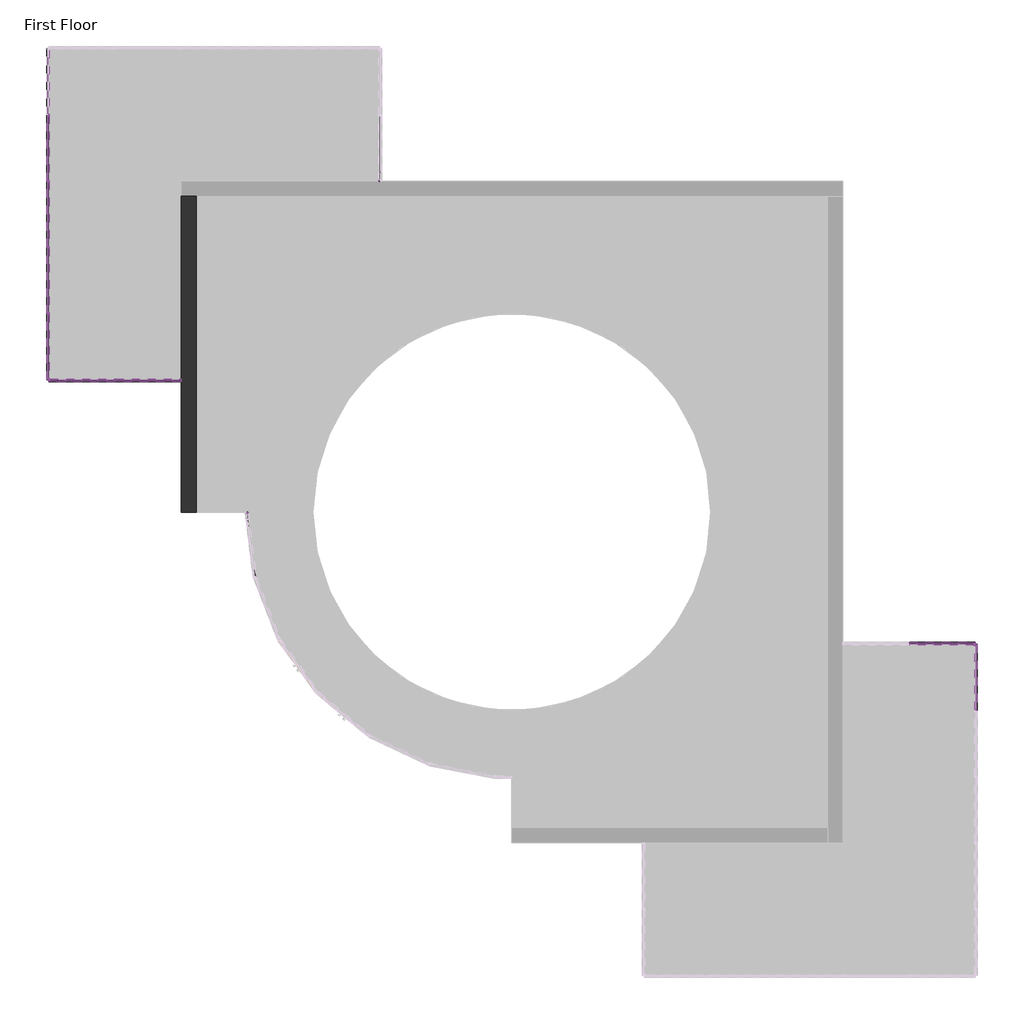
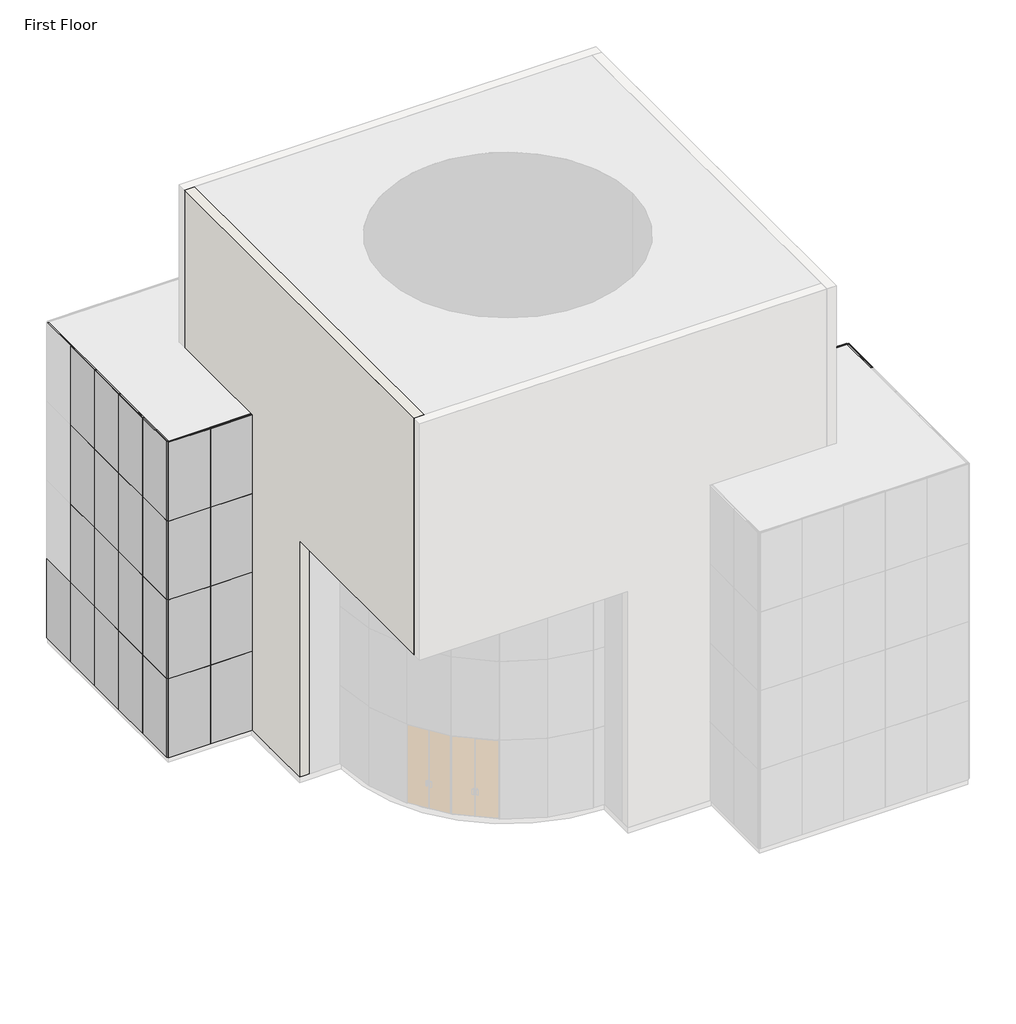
# One storey, part 3 of 4: 92 members, 33 plates, 1 wall.
"""IFC4 building model written with IfcOpenShell, lengths in millimetres."""

from ifc_helpers import new_model, si_unit, frame, origin, place, context, project, spatial, polyline, outline, extrude, transform, mapped, element, save
from components import rectangular_mullion_30mm_square_353f8307, rectangular_mullion_30mm_square_7a78963c, rectangular_mullion_30mm_square_eb988697, rectangular_mullion_30mm_square_0160e4a9, rectangular_mullion_30mm_square_0f531e6e, rectangular_mullion_30mm_square_5a53314d, rectangular_mullion_30mm_square_4d99f9b3, system_panel_glazed_8bf869fa

model = new_model("IFC4")

# Units and contexts
model_context = context("Model", 3, world=origin())
ifc_project = project(units=[si_unit("LENGTHUNIT", "METRE", prefix="MILLI")], contexts=[model_context])

# Site, building, storey
site = spatial("IfcSite", under=ifc_project)
building = spatial("IfcBuilding", under=site)
storey = spatial("IfcBuildingStorey", under=building, Name="First Floor", Elevation=0.0)

# Members
placement = place(None, origin())
rectangular_mullion_30mm_square_shape = rectangular_mullion_30mm_square_353f8307(model_context)
element("IfcMember", 1, ObjectType="Rectangular Mullion : 30mm Square", at=placement, inside=storey, context=model_context, shape_type="MappedRepresentation", body=[
    mapped(rectangular_mullion_30mm_square_shape, transform((-9824.9649915, 3250.852658, 12192.0), x_axis=(0.0, 0.0, 1.0), y_axis=(-1.0, 0.0, 0.0), z_axis=(0.0, -1.0, 0.0))),
])
element("IfcMember", 2, ObjectType="Rectangular Mullion : 30mm Square", at=placement, inside=storey, context=model_context, shape_type="MappedRepresentation", body=[
    mapped(rectangular_mullion_30mm_square_shape, transform((-9824.9649915, 9331.852658, 12192.0), x_axis=(0.0, 0.0, 1.0), y_axis=(-1.0, 0.0, 0.0), z_axis=(0.0, -1.0, 0.0))),
])
element("IfcMember", 3, ObjectType="Rectangular Mullion : 30mm Square", at=placement, inside=storey, context=model_context, shape_type="MappedRepresentation", body=[
    mapped(rectangular_mullion_30mm_square_shape, transform((-6806.9649915, 3220.852658, 12192.0), x_axis=(0.0, 0.0, 1.0), y_axis=(0.0, -1.0, 0.0), z_axis=(1.0, 0.0, 0.0))),
])
element("IfcMember", 4, ObjectType="Rectangular Mullion : 30mm Square", at=placement, inside=storey, context=model_context, shape_type="MappedRepresentation", body=[
    mapped(rectangular_mullion_30mm_square_shape, transform((-8315.9649915, 3220.852658, 12192.0), x_axis=(0.0, 0.0, 1.0), y_axis=(0.0, -1.0, 0.0), z_axis=(1.0, 0.0, 0.0))),
])
element("IfcMember", 5, ObjectType="Rectangular Mullion : 30mm Square", at=placement, inside=storey, context=model_context, shape_type="MappedRepresentation", body=[
    mapped(rectangular_mullion_30mm_square_shape, transform((11511.0350085, -2905.147342, 12192.0), x_axis=(0.0, 0.0, 1.0), y_axis=(1.0, 0.0, 0.0), z_axis=(0.0, 1.0, 0.0))),
])
element("IfcMember", 6, ObjectType="Rectangular Mullion : 30mm Square", at=placement, inside=storey, context=model_context, shape_type="MappedRepresentation", body=[
    mapped(rectangular_mullion_30mm_square_shape, transform((10002.0350085, -2875.147342, 12192.0), x_axis=(0.0, 0.0, 1.0), y_axis=(0.0, 1.0, 0.0), z_axis=(-1.0, 0.0, 0.0))),
])
element("IfcMember", 7, ObjectType="Rectangular Mullion : 30mm Square", at=placement, inside=storey, context=model_context, shape_type="MappedRepresentation", body=[
    mapped(rectangular_mullion_30mm_square_shape, transform((-9824.9649915, 4729.852658, 0.0), x_axis=(0.0, 0.0, -1.0), y_axis=(-1.0, 0.0, 0.0), z_axis=(0.0, 1.0, 0.0))),
])
element("IfcMember", 8, ObjectType="Rectangular Mullion : 30mm Square", at=placement, inside=storey, context=model_context, shape_type="MappedRepresentation", body=[
    mapped(rectangular_mullion_30mm_square_shape, transform((-9794.9649915, 3220.852658, 0.0), x_axis=(0.0, 0.0, -1.0), y_axis=(0.0, -1.0, 0.0), z_axis=(-1.0, 0.0, 0.0))),
])
element("IfcMember", 9, ObjectType="Rectangular Mullion : 30mm Square", at=placement, inside=storey, context=model_context, shape_type="MappedRepresentation", body=[
    mapped(rectangular_mullion_30mm_square_shape, transform((-8285.9649915, 3220.852658, 0.0), x_axis=(0.0, 0.0, -1.0), y_axis=(0.0, -1.0, 0.0), z_axis=(-1.0, 0.0, 0.0))),
])
element("IfcMember", 10, ObjectType="Rectangular Mullion : 30mm Square", at=placement, inside=storey, context=model_context, shape_type="MappedRepresentation", body=[
    mapped(rectangular_mullion_30mm_square_shape, transform((11481.0350085, -2875.147342, 0.0), x_axis=(0.0, 0.0, -1.0), y_axis=(0.0, 1.0, 0.0), z_axis=(1.0, 0.0, 0.0))),
])
element("IfcMember", 11, ObjectType="Rectangular Mullion : 30mm Square", at=placement, inside=storey, context=model_context, shape_type="MappedRepresentation", body=[
    mapped(rectangular_mullion_30mm_square_shape, transform((-2204.9649915, 7822.852658, 0.0), x_axis=(0.0, 0.0, -1.0), y_axis=(1.0, 0.0, 0.0), z_axis=(0.0, -1.0, 0.0))),
])
rectangular_mullion_30mm_square_2_shape = rectangular_mullion_30mm_square_7a78963c(model_context)
element("IfcMember", 12, ObjectType="Rectangular Mullion : 30mm Square", at=placement, inside=storey, context=model_context, shape_type="MappedRepresentation", body=[
    mapped(rectangular_mullion_30mm_square_2_shape, transform((-9824.9649915, 9316.852658, 0.0), x_axis=(0.0, -1.0, 0.0), y_axis=(-1.0, 0.0, 0.0), z_axis=(0.0, 0.0, -1.0))),
])
element("IfcMember", 13, ObjectType="Rectangular Mullion : 30mm Square", at=placement, inside=storey, context=model_context, shape_type="MappedRepresentation", body=[
    mapped(rectangular_mullion_30mm_square_2_shape, transform((-9824.9649915, 7792.852658, 0.0), x_axis=(0.0, -1.0, 0.0), y_axis=(-1.0, 0.0, 0.0), z_axis=(0.0, 0.0, -1.0))),
])
element("IfcMember", 14, ObjectType="Rectangular Mullion : 30mm Square", at=placement, inside=storey, context=model_context, shape_type="MappedRepresentation", body=[
    mapped(rectangular_mullion_30mm_square_2_shape, transform((-9824.9649915, 6268.852658, 0.0), x_axis=(0.0, -1.0, 0.0), y_axis=(-1.0, 0.0, 0.0), z_axis=(0.0, 0.0, -1.0))),
])
element("IfcMember", 15, ObjectType="Rectangular Mullion : 30mm Square", at=placement, inside=storey, context=model_context, shape_type="MappedRepresentation", body=[
    mapped(rectangular_mullion_30mm_square_2_shape, transform((-9824.9649915, 4744.852658, 0.0), x_axis=(0.0, -1.0, 0.0), y_axis=(-1.0, 0.0, 0.0), z_axis=(0.0, 0.0, -1.0))),
])
element("IfcMember", 16, ObjectType="Rectangular Mullion : 30mm Square", at=placement, inside=storey, context=model_context, shape_type="MappedRepresentation", body=[
    mapped(rectangular_mullion_30mm_square_2_shape, transform((-8300.9649915, 3220.852658, 0.0), x_axis=(1.0, 0.0, 0.0), y_axis=(0.0, -1.0, 0.0), z_axis=(0.0, 0.0, -1.0))),
])
rectangular_mullion_30mm_square_3_shape = rectangular_mullion_30mm_square_eb988697(model_context)
element("IfcMember", 17, ObjectType="Rectangular Mullion : 30mm Square", at=placement, inside=storey, context=model_context, shape_type="MappedRepresentation", body=[
    mapped(rectangular_mullion_30mm_square_3_shape, transform((-9824.9649915, 9331.852658, 3048.0), x_axis=(0.0, 0.0, 1.0), y_axis=(-1.0, 0.0, 0.0), z_axis=(0.0, -1.0, 0.0))),
])
element("IfcMember", 18, ObjectType="Rectangular Mullion : 30mm Square", at=placement, inside=storey, context=model_context, shape_type="MappedRepresentation", body=[
    mapped(rectangular_mullion_30mm_square_3_shape, transform((-9824.9649915, 3250.852658, 3048.0), x_axis=(0.0, 0.0, 1.0), y_axis=(-1.0, 0.0, 0.0), z_axis=(0.0, -1.0, 0.0))),
])
element("IfcMember", 19, ObjectType="Rectangular Mullion : 30mm Square", at=placement, inside=storey, context=model_context, shape_type="MappedRepresentation", body=[
    mapped(rectangular_mullion_30mm_square_3_shape, transform((-9824.9649915, 9331.852658, 6096.0), x_axis=(0.0, 0.0, 1.0), y_axis=(-1.0, 0.0, 0.0), z_axis=(0.0, -1.0, 0.0))),
])
element("IfcMember", 20, ObjectType="Rectangular Mullion : 30mm Square", at=placement, inside=storey, context=model_context, shape_type="MappedRepresentation", body=[
    mapped(rectangular_mullion_30mm_square_3_shape, transform((-9824.9649915, 3250.852658, 6096.0), x_axis=(0.0, 0.0, 1.0), y_axis=(-1.0, 0.0, 0.0), z_axis=(0.0, -1.0, 0.0))),
])
element("IfcMember", 21, ObjectType="Rectangular Mullion : 30mm Square", at=placement, inside=storey, context=model_context, shape_type="MappedRepresentation", body=[
    mapped(rectangular_mullion_30mm_square_3_shape, transform((-9824.9649915, 9331.852658, 9144.0), x_axis=(0.0, 0.0, 1.0), y_axis=(-1.0, 0.0, 0.0), z_axis=(0.0, -1.0, 0.0))),
])
element("IfcMember", 22, ObjectType="Rectangular Mullion : 30mm Square", at=placement, inside=storey, context=model_context, shape_type="MappedRepresentation", body=[
    mapped(rectangular_mullion_30mm_square_3_shape, transform((-9824.9649915, 3250.852658, 9144.0), x_axis=(0.0, 0.0, 1.0), y_axis=(-1.0, 0.0, 0.0), z_axis=(0.0, -1.0, 0.0))),
])
element("IfcMember", 23, ObjectType="Rectangular Mullion : 30mm Square", at=placement, inside=storey, context=model_context, shape_type="MappedRepresentation", body=[
    mapped(rectangular_mullion_30mm_square_3_shape, transform((-8315.9649915, 3220.852658, 3048.0), x_axis=(0.0, 0.0, 1.0), y_axis=(0.0, -1.0, 0.0), z_axis=(1.0, 0.0, 0.0))),
])
element("IfcMember", 24, ObjectType="Rectangular Mullion : 30mm Square", at=placement, inside=storey, context=model_context, shape_type="MappedRepresentation", body=[
    mapped(rectangular_mullion_30mm_square_3_shape, transform((-6806.9649915, 3220.852658, 3048.0), x_axis=(0.0, 0.0, 1.0), y_axis=(0.0, -1.0, 0.0), z_axis=(1.0, 0.0, 0.0))),
])
element("IfcMember", 25, ObjectType="Rectangular Mullion : 30mm Square", at=placement, inside=storey, context=model_context, shape_type="MappedRepresentation", body=[
    mapped(rectangular_mullion_30mm_square_3_shape, transform((-8315.9649915, 3220.852658, 6096.0), x_axis=(0.0, 0.0, 1.0), y_axis=(0.0, -1.0, 0.0), z_axis=(1.0, 0.0, 0.0))),
])
element("IfcMember", 26, ObjectType="Rectangular Mullion : 30mm Square", at=placement, inside=storey, context=model_context, shape_type="MappedRepresentation", body=[
    mapped(rectangular_mullion_30mm_square_3_shape, transform((-6806.9649915, 3220.852658, 6096.0), x_axis=(0.0, 0.0, 1.0), y_axis=(0.0, -1.0, 0.0), z_axis=(1.0, 0.0, 0.0))),
])
element("IfcMember", 27, ObjectType="Rectangular Mullion : 30mm Square", at=placement, inside=storey, context=model_context, shape_type="MappedRepresentation", body=[
    mapped(rectangular_mullion_30mm_square_3_shape, transform((-8315.9649915, 3220.852658, 9144.0), x_axis=(0.0, 0.0, 1.0), y_axis=(0.0, -1.0, 0.0), z_axis=(1.0, 0.0, 0.0))),
])
element("IfcMember", 28, ObjectType="Rectangular Mullion : 30mm Square", at=placement, inside=storey, context=model_context, shape_type="MappedRepresentation", body=[
    mapped(rectangular_mullion_30mm_square_3_shape, transform((-6806.9649915, 3220.852658, 9144.0), x_axis=(0.0, 0.0, 1.0), y_axis=(0.0, -1.0, 0.0), z_axis=(1.0, 0.0, 0.0))),
])
element("IfcMember", 29, ObjectType="Rectangular Mullion : 30mm Square", at=placement, inside=storey, context=model_context, shape_type="MappedRepresentation", body=[
    mapped(rectangular_mullion_30mm_square_3_shape, transform((11511.0350085, -2905.147342, 3048.0), x_axis=(0.0, 0.0, 1.0), y_axis=(1.0, 0.0, 0.0), z_axis=(0.0, 1.0, 0.0))),
])
element("IfcMember", 30, ObjectType="Rectangular Mullion : 30mm Square", at=placement, inside=storey, context=model_context, shape_type="MappedRepresentation", body=[
    mapped(rectangular_mullion_30mm_square_3_shape, transform((11511.0350085, -2905.147342, 6096.0), x_axis=(0.0, 0.0, 1.0), y_axis=(1.0, 0.0, 0.0), z_axis=(0.0, 1.0, 0.0))),
])
element("IfcMember", 31, ObjectType="Rectangular Mullion : 30mm Square", at=placement, inside=storey, context=model_context, shape_type="MappedRepresentation", body=[
    mapped(rectangular_mullion_30mm_square_3_shape, transform((11511.0350085, -2905.147342, 9144.0), x_axis=(0.0, 0.0, 1.0), y_axis=(1.0, 0.0, 0.0), z_axis=(0.0, 1.0, 0.0))),
])
element("IfcMember", 32, ObjectType="Rectangular Mullion : 30mm Square", at=placement, inside=storey, context=model_context, shape_type="MappedRepresentation", body=[
    mapped(rectangular_mullion_30mm_square_3_shape, transform((10002.0350085, -2875.147342, 3048.0), x_axis=(0.0, 0.0, 1.0), y_axis=(0.0, 1.0, 0.0), z_axis=(-1.0, 0.0, 0.0))),
])
element("IfcMember", 33, ObjectType="Rectangular Mullion : 30mm Square", at=placement, inside=storey, context=model_context, shape_type="MappedRepresentation", body=[
    mapped(rectangular_mullion_30mm_square_3_shape, transform((10002.0350085, -2875.147342, 6096.0), x_axis=(0.0, 0.0, 1.0), y_axis=(0.0, 1.0, 0.0), z_axis=(-1.0, 0.0, 0.0))),
])
element("IfcMember", 34, ObjectType="Rectangular Mullion : 30mm Square", at=placement, inside=storey, context=model_context, shape_type="MappedRepresentation", body=[
    mapped(rectangular_mullion_30mm_square_3_shape, transform((10002.0350085, -2875.147342, 9144.0), x_axis=(0.0, 0.0, 1.0), y_axis=(0.0, 1.0, 0.0), z_axis=(-1.0, 0.0, 0.0))),
])
rectangular_mullion_30mm_square_4_shape = rectangular_mullion_30mm_square_0160e4a9(model_context)
element("IfcMember", 35, ObjectType="Rectangular Mullion : 30mm Square", at=placement, inside=storey, context=model_context, shape_type="MappedRepresentation", body=[
    mapped(rectangular_mullion_30mm_square_4_shape, transform((-9824.9649915, 7807.852658, 3048.0), x_axis=(0.0, 0.0, 1.0), y_axis=(-1.0, 0.0, 0.0), z_axis=(0.0, -1.0, 0.0))),
])
element("IfcMember", 36, ObjectType="Rectangular Mullion : 30mm Square", at=placement, inside=storey, context=model_context, shape_type="MappedRepresentation", body=[
    mapped(rectangular_mullion_30mm_square_4_shape, transform((-9824.9649915, 6283.852658, 3048.0), x_axis=(0.0, 0.0, 1.0), y_axis=(-1.0, 0.0, 0.0), z_axis=(0.0, -1.0, 0.0))),
])
element("IfcMember", 37, ObjectType="Rectangular Mullion : 30mm Square", at=placement, inside=storey, context=model_context, shape_type="MappedRepresentation", body=[
    mapped(rectangular_mullion_30mm_square_4_shape, transform((-9824.9649915, 4759.852658, 3048.0), x_axis=(0.0, 0.0, 1.0), y_axis=(-1.0, 0.0, 0.0), z_axis=(0.0, -1.0, 0.0))),
])
element("IfcMember", 38, ObjectType="Rectangular Mullion : 30mm Square", at=placement, inside=storey, context=model_context, shape_type="MappedRepresentation", body=[
    mapped(rectangular_mullion_30mm_square_4_shape, transform((-9824.9649915, 7807.852658, 6096.0), x_axis=(0.0, 0.0, 1.0), y_axis=(-1.0, 0.0, 0.0), z_axis=(0.0, -1.0, 0.0))),
])
element("IfcMember", 39, ObjectType="Rectangular Mullion : 30mm Square", at=placement, inside=storey, context=model_context, shape_type="MappedRepresentation", body=[
    mapped(rectangular_mullion_30mm_square_4_shape, transform((-9824.9649915, 6283.852658, 6096.0), x_axis=(0.0, 0.0, 1.0), y_axis=(-1.0, 0.0, 0.0), z_axis=(0.0, -1.0, 0.0))),
])
element("IfcMember", 40, ObjectType="Rectangular Mullion : 30mm Square", at=placement, inside=storey, context=model_context, shape_type="MappedRepresentation", body=[
    mapped(rectangular_mullion_30mm_square_4_shape, transform((-9824.9649915, 4759.852658, 6096.0), x_axis=(0.0, 0.0, 1.0), y_axis=(-1.0, 0.0, 0.0), z_axis=(0.0, -1.0, 0.0))),
])
element("IfcMember", 41, ObjectType="Rectangular Mullion : 30mm Square", at=placement, inside=storey, context=model_context, shape_type="MappedRepresentation", body=[
    mapped(rectangular_mullion_30mm_square_4_shape, transform((-9824.9649915, 7807.852658, 9144.0), x_axis=(0.0, 0.0, 1.0), y_axis=(-1.0, 0.0, 0.0), z_axis=(0.0, -1.0, 0.0))),
])
element("IfcMember", 42, ObjectType="Rectangular Mullion : 30mm Square", at=placement, inside=storey, context=model_context, shape_type="MappedRepresentation", body=[
    mapped(rectangular_mullion_30mm_square_4_shape, transform((-9824.9649915, 6283.852658, 9144.0), x_axis=(0.0, 0.0, 1.0), y_axis=(-1.0, 0.0, 0.0), z_axis=(0.0, -1.0, 0.0))),
])
element("IfcMember", 43, ObjectType="Rectangular Mullion : 30mm Square", at=placement, inside=storey, context=model_context, shape_type="MappedRepresentation", body=[
    mapped(rectangular_mullion_30mm_square_4_shape, transform((-9824.9649915, 4759.852658, 9144.0), x_axis=(0.0, 0.0, 1.0), y_axis=(-1.0, 0.0, 0.0), z_axis=(0.0, -1.0, 0.0))),
])
rectangular_mullion_30mm_square_5_shape = rectangular_mullion_30mm_square_0f531e6e(model_context)
element("IfcMember", 44, ObjectType="Rectangular Mullion : 30mm Square", at=placement, inside=storey, context=model_context, shape_type="MappedRepresentation", body=[
    mapped(rectangular_mullion_30mm_square_5_shape, transform((-9824.9649915, 9301.852658, 0.0), x_axis=(0.0, 0.0, -1.0), y_axis=(-1.0, 0.0, 0.0), z_axis=(0.0, 1.0, 0.0))),
])
element("IfcMember", 45, ObjectType="Rectangular Mullion : 30mm Square", at=placement, inside=storey, context=model_context, shape_type="MappedRepresentation", body=[
    mapped(rectangular_mullion_30mm_square_5_shape, transform((-9824.9649915, 7777.852658, 0.0), x_axis=(0.0, 0.0, -1.0), y_axis=(-1.0, 0.0, 0.0), z_axis=(0.0, 1.0, 0.0))),
])
element("IfcMember", 46, ObjectType="Rectangular Mullion : 30mm Square", at=placement, inside=storey, context=model_context, shape_type="MappedRepresentation", body=[
    mapped(rectangular_mullion_30mm_square_5_shape, transform((-9824.9649915, 6253.852658, 0.0), x_axis=(0.0, 0.0, -1.0), y_axis=(-1.0, 0.0, 0.0), z_axis=(0.0, 1.0, 0.0))),
])
element("IfcMember", 47, ObjectType="Rectangular Mullion : 30mm Square", at=placement, inside=storey, context=model_context, shape_type="MappedRepresentation", body=[
    mapped(rectangular_mullion_30mm_square_5_shape, transform((-9824.9649915, 7807.852658, 12192.0), x_axis=(0.0, 0.0, 1.0), y_axis=(-1.0, 0.0, 0.0), z_axis=(0.0, -1.0, 0.0))),
])
element("IfcMember", 48, ObjectType="Rectangular Mullion : 30mm Square", at=placement, inside=storey, context=model_context, shape_type="MappedRepresentation", body=[
    mapped(rectangular_mullion_30mm_square_5_shape, transform((-9824.9649915, 6283.852658, 12192.0), x_axis=(0.0, 0.0, 1.0), y_axis=(-1.0, 0.0, 0.0), z_axis=(0.0, -1.0, 0.0))),
])
element("IfcMember", 49, ObjectType="Rectangular Mullion : 30mm Square", at=placement, inside=storey, context=model_context, shape_type="MappedRepresentation", body=[
    mapped(rectangular_mullion_30mm_square_5_shape, transform((-9824.9649915, 4759.852658, 12192.0), x_axis=(0.0, 0.0, 1.0), y_axis=(-1.0, 0.0, 0.0), z_axis=(0.0, -1.0, 0.0))),
])
element("IfcMember", 50, ObjectType="Rectangular Mullion : 30mm Square", at=placement, inside=storey, context=model_context, shape_type="MappedRepresentation", body=[
    mapped(rectangular_mullion_30mm_square_2_shape, transform((-9824.9649915, 9316.852658, 3048.0), x_axis=(0.0, -1.0, 0.0), y_axis=(-1.0, 0.0, 0.0), z_axis=(0.0, 0.0, -1.0))),
])
element("IfcMember", 51, ObjectType="Rectangular Mullion : 30mm Square", at=placement, inside=storey, context=model_context, shape_type="MappedRepresentation", body=[
    mapped(rectangular_mullion_30mm_square_2_shape, transform((-9824.9649915, 9316.852658, 6096.0), x_axis=(0.0, -1.0, 0.0), y_axis=(-1.0, 0.0, 0.0), z_axis=(0.0, 0.0, -1.0))),
])
element("IfcMember", 52, ObjectType="Rectangular Mullion : 30mm Square", at=placement, inside=storey, context=model_context, shape_type="MappedRepresentation", body=[
    mapped(rectangular_mullion_30mm_square_2_shape, transform((-9824.9649915, 7792.852658, 3048.0), x_axis=(0.0, -1.0, 0.0), y_axis=(-1.0, 0.0, 0.0), z_axis=(0.0, 0.0, -1.0))),
])
element("IfcMember", 53, ObjectType="Rectangular Mullion : 30mm Square", at=placement, inside=storey, context=model_context, shape_type="MappedRepresentation", body=[
    mapped(rectangular_mullion_30mm_square_2_shape, transform((-9824.9649915, 7792.852658, 6096.0), x_axis=(0.0, -1.0, 0.0), y_axis=(-1.0, 0.0, 0.0), z_axis=(0.0, 0.0, -1.0))),
])
element("IfcMember", 54, ObjectType="Rectangular Mullion : 30mm Square", at=placement, inside=storey, context=model_context, shape_type="MappedRepresentation", body=[
    mapped(rectangular_mullion_30mm_square_2_shape, transform((-9824.9649915, 6268.852658, 3048.0), x_axis=(0.0, -1.0, 0.0), y_axis=(-1.0, 0.0, 0.0), z_axis=(0.0, 0.0, -1.0))),
])
element("IfcMember", 55, ObjectType="Rectangular Mullion : 30mm Square", at=placement, inside=storey, context=model_context, shape_type="MappedRepresentation", body=[
    mapped(rectangular_mullion_30mm_square_2_shape, transform((-9824.9649915, 6268.852658, 6096.0), x_axis=(0.0, -1.0, 0.0), y_axis=(-1.0, 0.0, 0.0), z_axis=(0.0, 0.0, -1.0))),
])
element("IfcMember", 56, ObjectType="Rectangular Mullion : 30mm Square", at=placement, inside=storey, context=model_context, shape_type="MappedRepresentation", body=[
    mapped(rectangular_mullion_30mm_square_2_shape, transform((-9824.9649915, 4744.852658, 3048.0), x_axis=(0.0, -1.0, 0.0), y_axis=(-1.0, 0.0, 0.0), z_axis=(0.0, 0.0, -1.0))),
])
element("IfcMember", 57, ObjectType="Rectangular Mullion : 30mm Square", at=placement, inside=storey, context=model_context, shape_type="MappedRepresentation", body=[
    mapped(rectangular_mullion_30mm_square_2_shape, transform((-9824.9649915, 4744.852658, 6096.0), x_axis=(0.0, -1.0, 0.0), y_axis=(-1.0, 0.0, 0.0), z_axis=(0.0, 0.0, -1.0))),
])
element("IfcMember", 58, ObjectType="Rectangular Mullion : 30mm Square", at=placement, inside=storey, context=model_context, shape_type="MappedRepresentation", body=[
    mapped(rectangular_mullion_30mm_square_2_shape, transform((-8300.9649915, 3220.852658, 3048.0), x_axis=(1.0, 0.0, 0.0), y_axis=(0.0, -1.0, 0.0), z_axis=(0.0, 0.0, -1.0))),
])
element("IfcMember", 59, ObjectType="Rectangular Mullion : 30mm Square", at=placement, inside=storey, context=model_context, shape_type="MappedRepresentation", body=[
    mapped(rectangular_mullion_30mm_square_2_shape, transform((-8300.9649915, 3220.852658, 6096.0), x_axis=(1.0, 0.0, 0.0), y_axis=(0.0, -1.0, 0.0), z_axis=(0.0, 0.0, -1.0))),
])
element("IfcMember", 60, ObjectType="Rectangular Mullion : 30mm Square", at=placement, inside=storey, context=model_context, shape_type="MappedRepresentation", body=[
    mapped(rectangular_mullion_30mm_square_2_shape, transform((-9824.9649915, 9316.852658, 9144.0), x_axis=(0.0, -1.0, 0.0), y_axis=(-1.0, 0.0, 0.0), z_axis=(0.0, 0.0, -1.0))),
])
element("IfcMember", 61, ObjectType="Rectangular Mullion : 30mm Square", at=placement, inside=storey, context=model_context, shape_type="MappedRepresentation", body=[
    mapped(rectangular_mullion_30mm_square_2_shape, transform((-9824.9649915, 7792.852658, 9144.0), x_axis=(0.0, -1.0, 0.0), y_axis=(-1.0, 0.0, 0.0), z_axis=(0.0, 0.0, -1.0))),
])
element("IfcMember", 62, ObjectType="Rectangular Mullion : 30mm Square", at=placement, inside=storey, context=model_context, shape_type="MappedRepresentation", body=[
    mapped(rectangular_mullion_30mm_square_2_shape, transform((-9824.9649915, 6268.852658, 9144.0), x_axis=(0.0, -1.0, 0.0), y_axis=(-1.0, 0.0, 0.0), z_axis=(0.0, 0.0, -1.0))),
])
element("IfcMember", 63, ObjectType="Rectangular Mullion : 30mm Square", at=placement, inside=storey, context=model_context, shape_type="MappedRepresentation", body=[
    mapped(rectangular_mullion_30mm_square_2_shape, transform((-9824.9649915, 4744.852658, 9144.0), x_axis=(0.0, -1.0, 0.0), y_axis=(-1.0, 0.0, 0.0), z_axis=(0.0, 0.0, -1.0))),
])
element("IfcMember", 64, ObjectType="Rectangular Mullion : 30mm Square", at=placement, inside=storey, context=model_context, shape_type="MappedRepresentation", body=[
    mapped(rectangular_mullion_30mm_square_2_shape, transform((-8300.9649915, 3220.852658, 9144.0), x_axis=(1.0, 0.0, 0.0), y_axis=(0.0, -1.0, 0.0), z_axis=(0.0, 0.0, -1.0))),
])
rectangular_mullion_30mm_square_6_shape = rectangular_mullion_30mm_square_5a53314d(model_context)
element("IfcMember", 65, ObjectType="Rectangular Mullion : 30mm Square", at=placement, inside=storey, context=model_context, shape_type="MappedRepresentation", body=[
    mapped(rectangular_mullion_30mm_square_6_shape, transform((-9824.9649915, 3220.852658, 12192.0), x_axis=(-1.0, 0.0, 0.0), y_axis=(0.0, -1.0, 0.0), z_axis=(0.0, 0.0, 1.0))),
])
element("IfcMember", 66, ObjectType="Rectangular Mullion : 30mm Square", at=placement, inside=storey, context=model_context, shape_type="MappedRepresentation", body=[
    mapped(rectangular_mullion_30mm_square_6_shape, transform((-5252.9649915, 172.852658, 9144.0), x_axis=(-0.12500000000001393, 0.9921567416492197, 0.0), y_axis=(-0.9921567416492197, -0.12500000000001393, 0.0), z_axis=(0.0, 0.0, 1.0))),
])
element("IfcMember", 67, ObjectType="Rectangular Mullion : 30mm Square", at=placement, inside=storey, context=model_context, shape_type="MappedRepresentation", body=[
    mapped(rectangular_mullion_30mm_square_6_shape, transform((11511.0350085, -2875.147342, 12192.0), x_axis=(1.0, 0.0, 0.0), y_axis=(0.0, 1.0, 0.0), z_axis=(0.0, 0.0, 1.0))),
])
element("IfcMember", 68, ObjectType="Rectangular Mullion : 30mm Square", at=placement, inside=storey, context=model_context, shape_type="MappedRepresentation", body=[
    mapped(rectangular_mullion_30mm_square_6_shape, transform((-2204.9649915, 7792.852658, 12192.0), x_axis=(0.0, -1.0, 0.0), y_axis=(1.0, 0.0, 0.0), z_axis=(0.0, 0.0, 1.0))),
])
element("IfcMember", 69, ObjectType="Rectangular Mullion : 30mm Square", at=placement, inside=storey, context=model_context, shape_type="MappedRepresentation", body=[
    mapped(rectangular_mullion_30mm_square_6_shape, transform((-9824.9649915, 3220.852658, 0.0), x_axis=(0.0, -1.0, 0.0), y_axis=(-1.0, 0.0, 0.0), z_axis=(0.0, 0.0, -1.0))),
])
element("IfcMember", 70, ObjectType="Rectangular Mullion : 30mm Square", at=placement, inside=storey, context=model_context, shape_type="MappedRepresentation", body=[
    mapped(rectangular_mullion_30mm_square_6_shape, transform((-6776.9649915, 3220.852658, 0.0), x_axis=(1.0, 0.0, 0.0), y_axis=(0.0, -1.0, 0.0), z_axis=(0.0, 0.0, -1.0))),
])
element("IfcMember", 71, ObjectType="Rectangular Mullion : 30mm Square", at=placement, inside=storey, context=model_context, shape_type="MappedRepresentation", body=[
    mapped(rectangular_mullion_30mm_square_6_shape, transform((11511.0350085, -2875.147342, 0.0), x_axis=(0.0, 1.0, 0.0), y_axis=(1.0, 0.0, 0.0), z_axis=(0.0, 0.0, -1.0))),
])
element("IfcMember", 72, ObjectType="Rectangular Mullion : 30mm Square", at=placement, inside=storey, context=model_context, shape_type="MappedRepresentation", body=[
    mapped(rectangular_mullion_30mm_square_6_shape, transform((-9824.9649915, 3220.852658, 3048.0), x_axis=(0.0, -1.0, 0.0), y_axis=(-1.0, 0.0, 0.0), z_axis=(0.0, 0.0, -1.0))),
])
element("IfcMember", 73, ObjectType="Rectangular Mullion : 30mm Square", at=placement, inside=storey, context=model_context, shape_type="MappedRepresentation", body=[
    mapped(rectangular_mullion_30mm_square_6_shape, transform((-9824.9649915, 3220.852658, 6096.0), x_axis=(0.0, -1.0, 0.0), y_axis=(-1.0, 0.0, 0.0), z_axis=(0.0, 0.0, -1.0))),
])
element("IfcMember", 74, ObjectType="Rectangular Mullion : 30mm Square", at=placement, inside=storey, context=model_context, shape_type="MappedRepresentation", body=[
    mapped(rectangular_mullion_30mm_square_6_shape, transform((-6776.9649915, 3220.852658, 3048.0), x_axis=(1.0, 0.0, 0.0), y_axis=(0.0, -1.0, 0.0), z_axis=(0.0, 0.0, -1.0))),
])
element("IfcMember", 75, ObjectType="Rectangular Mullion : 30mm Square", at=placement, inside=storey, context=model_context, shape_type="MappedRepresentation", body=[
    mapped(rectangular_mullion_30mm_square_6_shape, transform((-6776.9649915, 3220.852658, 6096.0), x_axis=(1.0, 0.0, 0.0), y_axis=(0.0, -1.0, 0.0), z_axis=(0.0, 0.0, -1.0))),
])
element("IfcMember", 76, ObjectType="Rectangular Mullion : 30mm Square", at=placement, inside=storey, context=model_context, shape_type="MappedRepresentation", body=[
    mapped(rectangular_mullion_30mm_square_6_shape, transform((11511.0350085, -2875.147342, 3048.0), x_axis=(0.0, 1.0, 0.0), y_axis=(1.0, 0.0, 0.0), z_axis=(0.0, 0.0, -1.0))),
])
element("IfcMember", 77, ObjectType="Rectangular Mullion : 30mm Square", at=placement, inside=storey, context=model_context, shape_type="MappedRepresentation", body=[
    mapped(rectangular_mullion_30mm_square_6_shape, transform((11511.0350085, -2875.147342, 6096.0), x_axis=(0.0, 1.0, 0.0), y_axis=(1.0, 0.0, 0.0), z_axis=(0.0, 0.0, -1.0))),
])
element("IfcMember", 78, ObjectType="Rectangular Mullion : 30mm Square", at=placement, inside=storey, context=model_context, shape_type="MappedRepresentation", body=[
    mapped(rectangular_mullion_30mm_square_6_shape, transform((-9824.9649915, 3220.852658, 9144.0), x_axis=(0.0, -1.0, 0.0), y_axis=(-1.0, 0.0, 0.0), z_axis=(0.0, 0.0, -1.0))),
])
element("IfcMember", 79, ObjectType="Rectangular Mullion : 30mm Square", at=placement, inside=storey, context=model_context, shape_type="MappedRepresentation", body=[
    mapped(rectangular_mullion_30mm_square_6_shape, transform((-6776.9649915, 3220.852658, 9144.0), x_axis=(1.0, 0.0, 0.0), y_axis=(0.0, -1.0, 0.0), z_axis=(0.0, 0.0, -1.0))),
])
element("IfcMember", 80, ObjectType="Rectangular Mullion : 30mm Square", at=placement, inside=storey, context=model_context, shape_type="MappedRepresentation", body=[
    mapped(rectangular_mullion_30mm_square_6_shape, transform((11511.0350085, -2875.147342, 9144.0), x_axis=(0.0, 1.0, 0.0), y_axis=(1.0, 0.0, 0.0), z_axis=(0.0, 0.0, -1.0))),
])
element("IfcMember", 81, ObjectType="Rectangular Mullion : 30mm Square", at=placement, inside=storey, context=model_context, shape_type="MappedRepresentation", body=[
    mapped(rectangular_mullion_30mm_square_6_shape, transform((-9824.9649915, 3220.852658, 3048.0), x_axis=(-1.0, 0.0, 0.0), y_axis=(0.0, -1.0, 0.0), z_axis=(0.0, 0.0, 1.0))),
])
element("IfcMember", 82, ObjectType="Rectangular Mullion : 30mm Square", at=placement, inside=storey, context=model_context, shape_type="MappedRepresentation", body=[
    mapped(rectangular_mullion_30mm_square_6_shape, transform((-5252.9649915, 172.852658, 3048.0), x_axis=(-0.12500000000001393, 0.9921567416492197, 0.0), y_axis=(-0.9921567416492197, -0.12500000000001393, 0.0), z_axis=(0.0, 0.0, 1.0))),
])
element("IfcMember", 83, ObjectType="Rectangular Mullion : 30mm Square", at=placement, inside=storey, context=model_context, shape_type="MappedRepresentation", body=[
    mapped(rectangular_mullion_30mm_square_6_shape, transform((11511.0350085, -2875.147342, 3048.0), x_axis=(1.0, 0.0, 0.0), y_axis=(0.0, 1.0, 0.0), z_axis=(0.0, 0.0, 1.0))),
])
element("IfcMember", 84, ObjectType="Rectangular Mullion : 30mm Square", at=placement, inside=storey, context=model_context, shape_type="MappedRepresentation", body=[
    mapped(rectangular_mullion_30mm_square_6_shape, transform((-2204.9649915, 7792.852658, 3048.0), x_axis=(0.0, -1.0, 0.0), y_axis=(1.0, 0.0, 0.0), z_axis=(0.0, 0.0, 1.0))),
])
element("IfcMember", 85, ObjectType="Rectangular Mullion : 30mm Square", at=placement, inside=storey, context=model_context, shape_type="MappedRepresentation", body=[
    mapped(rectangular_mullion_30mm_square_6_shape, transform((-9824.9649915, 3220.852658, 6096.0), x_axis=(-1.0, 0.0, 0.0), y_axis=(0.0, -1.0, 0.0), z_axis=(0.0, 0.0, 1.0))),
])
element("IfcMember", 86, ObjectType="Rectangular Mullion : 30mm Square", at=placement, inside=storey, context=model_context, shape_type="MappedRepresentation", body=[
    mapped(rectangular_mullion_30mm_square_6_shape, transform((-9824.9649915, 3220.852658, 9144.0), x_axis=(-1.0, 0.0, 0.0), y_axis=(0.0, -1.0, 0.0), z_axis=(0.0, 0.0, 1.0))),
])
element("IfcMember", 87, ObjectType="Rectangular Mullion : 30mm Square", at=placement, inside=storey, context=model_context, shape_type="MappedRepresentation", body=[
    mapped(rectangular_mullion_30mm_square_6_shape, transform((-5252.9649915, 172.852658, 6096.0), x_axis=(-0.1250000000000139, 0.9921567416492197, 0.0), y_axis=(-0.9921567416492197, -0.1250000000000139, 0.0), z_axis=(0.0, 0.0, 1.0))),
])
element("IfcMember", 88, ObjectType="Rectangular Mullion : 30mm Square", at=placement, inside=storey, context=model_context, shape_type="MappedRepresentation", body=[
    mapped(rectangular_mullion_30mm_square_6_shape, transform((11511.0350085, -2875.147342, 6096.0), x_axis=(1.0, 0.0, 0.0), y_axis=(0.0, 1.0, 0.0), z_axis=(0.0, 0.0, 1.0))),
])
element("IfcMember", 89, ObjectType="Rectangular Mullion : 30mm Square", at=placement, inside=storey, context=model_context, shape_type="MappedRepresentation", body=[
    mapped(rectangular_mullion_30mm_square_6_shape, transform((11511.0350085, -2875.147342, 9144.0), x_axis=(1.0, 0.0, 0.0), y_axis=(0.0, 1.0, 0.0), z_axis=(0.0, 0.0, 1.0))),
])
element("IfcMember", 90, ObjectType="Rectangular Mullion : 30mm Square", at=placement, inside=storey, context=model_context, shape_type="MappedRepresentation", body=[
    mapped(rectangular_mullion_30mm_square_6_shape, transform((-2204.9649915, 7792.852658, 6096.0), x_axis=(0.0, -1.0, 0.0), y_axis=(1.0, 0.0, 0.0), z_axis=(0.0, 0.0, 1.0))),
])
element("IfcMember", 91, ObjectType="Rectangular Mullion : 30mm Square", at=placement, inside=storey, context=model_context, shape_type="MappedRepresentation", body=[
    mapped(rectangular_mullion_30mm_square_6_shape, transform((-2204.9649915, 7792.852658, 9144.0), x_axis=(0.0, -1.0, 0.0), y_axis=(1.0, 0.0, 0.0), z_axis=(0.0, 0.0, 1.0))),
])
rectangular_mullion_30mm_square_7_shape = rectangular_mullion_30mm_square_4d99f9b3(model_context)
element("IfcMember", 92, ObjectType="Rectangular Mullion : 30mm Square", at=placement, inside=storey, context=model_context, shape_type="MappedRepresentation", body=[
    mapped(rectangular_mullion_30mm_square_7_shape, transform((-5249.2149915, 143.0879557, 0.0), x_axis=(0.0, 0.0, -1.0), y_axis=(-0.9921567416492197, -0.12500000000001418, 0.0), z_axis=(-0.12500000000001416, 0.9921567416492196, 0.0))),
])

# Plates
system_panel_glazed_shape = system_panel_glazed_8bf869fa(model_context)
element("IfcPlate", 93, ObjectType="System Panel : Glazed", at=placement, inside=storey, context=model_context, shape_type="MappedRepresentation", body=[
    mapped(system_panel_glazed_shape, transform((-9062.9649915, 3220.852658, 0.0), x_axis=(1.0, 0.0, 0.0), y_axis=(0.0, 1.0, 0.0), z_axis=(0.0, 0.0, 1.0))),
])
element("IfcPlate", 94, ObjectType="System Panel : Glazed", at=placement, inside=storey, context=model_context, shape_type="MappedRepresentation", body=[
    mapped(system_panel_glazed_shape, transform((-7538.9649915, 3220.852658, 0.0), x_axis=(1.0, 0.0, 0.0), y_axis=(0.0, 1.0, 0.0), z_axis=(0.0, 0.0, 1.0))),
])
element("IfcPlate", 95, ObjectType="System Panel : Glazed", at=placement, inside=storey, context=model_context, shape_type="MappedRepresentation", body=[
    mapped(system_panel_glazed_shape, transform((-9062.9649915, 3220.852658, 3048.0), x_axis=(1.0, 0.0, 0.0), y_axis=(0.0, 1.0, 0.0), z_axis=(0.0, 0.0, 1.0))),
])
element("IfcPlate", 96, ObjectType="System Panel : Glazed", at=placement, inside=storey, context=model_context, shape_type="MappedRepresentation", body=[
    mapped(system_panel_glazed_shape, transform((-7538.9649915, 3220.852658, 3048.0), x_axis=(1.0, 0.0, 0.0), y_axis=(0.0, 1.0, 0.0), z_axis=(0.0, 0.0, 1.0))),
])
element("IfcPlate", 97, ObjectType="System Panel : Glazed", at=placement, inside=storey, context=model_context, shape_type="MappedRepresentation", body=[
    mapped(system_panel_glazed_shape, transform((-9062.9649915, 3220.852658, 6096.0), x_axis=(1.0, 0.0, 0.0), y_axis=(0.0, 1.0, 0.0), z_axis=(0.0, 0.0, 1.0))),
])
element("IfcPlate", 98, ObjectType="System Panel : Glazed", at=placement, inside=storey, context=model_context, shape_type="MappedRepresentation", body=[
    mapped(system_panel_glazed_shape, transform((-7538.9649915, 3220.852658, 6096.0), x_axis=(1.0, 0.0, 0.0), y_axis=(0.0, 1.0, 0.0), z_axis=(0.0, 0.0, 1.0))),
])
element("IfcPlate", 99, ObjectType="System Panel : Glazed", at=placement, inside=storey, context=model_context, shape_type="MappedRepresentation", body=[
    mapped(system_panel_glazed_shape, transform((-9062.9649915, 3220.852658, 9144.0), x_axis=(1.0, 0.0, 0.0), y_axis=(0.0, 1.0, 0.0), z_axis=(0.0, 0.0, 1.0))),
])
element("IfcPlate", 100, ObjectType="System Panel : Glazed", at=placement, inside=storey, context=model_context, shape_type="MappedRepresentation", body=[
    mapped(system_panel_glazed_shape, transform((-7538.9649915, 3220.852658, 9144.0), x_axis=(1.0, 0.0, 0.0), y_axis=(0.0, 1.0, 0.0), z_axis=(0.0, 0.0, 1.0))),
])
element("IfcPlate", 101, ObjectType="System Panel : Glazed", at=placement, inside=storey, context=model_context, shape_type="MappedRepresentation", body=[
    mapped(system_panel_glazed_shape, transform((-9824.9649915, 10078.852658, 0.0), x_axis=(0.0, -1.0, 0.0), y_axis=(1.0, 0.0, 0.0), z_axis=(0.0, 0.0, 1.0))),
])
element("IfcPlate", 102, ObjectType="System Panel : Glazed", at=placement, inside=storey, context=model_context, shape_type="MappedRepresentation", body=[
    mapped(system_panel_glazed_shape, transform((-9824.9649915, 8554.852658, 0.0), x_axis=(0.0, -1.0, 0.0), y_axis=(1.0, 0.0, 0.0), z_axis=(0.0, 0.0, 1.0))),
])
element("IfcPlate", 103, ObjectType="System Panel : Glazed", at=placement, inside=storey, context=model_context, shape_type="MappedRepresentation", body=[
    mapped(system_panel_glazed_shape, transform((-9824.9649915, 7030.852658, 0.0), x_axis=(0.0, -1.0, 0.0), y_axis=(1.0, 0.0, 0.0), z_axis=(0.0, 0.0, 1.0))),
])
element("IfcPlate", 104, ObjectType="System Panel : Glazed", at=placement, inside=storey, context=model_context, shape_type="MappedRepresentation", body=[
    mapped(system_panel_glazed_shape, transform((-9824.9649915, 5506.852658, 0.0), x_axis=(0.0, -1.0, 0.0), y_axis=(1.0, 0.0, 0.0), z_axis=(0.0, 0.0, 1.0))),
])
element("IfcPlate", 105, ObjectType="System Panel : Glazed", at=placement, inside=storey, context=model_context, shape_type="MappedRepresentation", body=[
    mapped(system_panel_glazed_shape, transform((-9824.9649915, 3982.852658, 0.0), x_axis=(0.0, -1.0, 0.0), y_axis=(1.0, 0.0, 0.0), z_axis=(0.0, 0.0, 1.0))),
])
element("IfcPlate", 106, ObjectType="System Panel : Glazed", at=placement, inside=storey, context=model_context, shape_type="MappedRepresentation", body=[
    mapped(system_panel_glazed_shape, transform((-9824.9649915, 8554.852658, 3048.0), x_axis=(0.0, -1.0, 0.0), y_axis=(1.0, 0.0, 0.0), z_axis=(0.0, 0.0, 1.0))),
])
element("IfcPlate", 107, ObjectType="System Panel : Glazed", at=placement, inside=storey, context=model_context, shape_type="MappedRepresentation", body=[
    mapped(system_panel_glazed_shape, transform((-9824.9649915, 7030.852658, 3048.0), x_axis=(0.0, -1.0, 0.0), y_axis=(1.0, 0.0, 0.0), z_axis=(0.0, 0.0, 1.0))),
])
element("IfcPlate", 108, ObjectType="System Panel : Glazed", at=placement, inside=storey, context=model_context, shape_type="MappedRepresentation", body=[
    mapped(system_panel_glazed_shape, transform((-9824.9649915, 5506.852658, 3048.0), x_axis=(0.0, -1.0, 0.0), y_axis=(1.0, 0.0, 0.0), z_axis=(0.0, 0.0, 1.0))),
])
element("IfcPlate", 109, ObjectType="System Panel : Glazed", at=placement, inside=storey, context=model_context, shape_type="MappedRepresentation", body=[
    mapped(system_panel_glazed_shape, transform((-9824.9649915, 3982.852658, 3048.0), x_axis=(0.0, -1.0, 0.0), y_axis=(1.0, 0.0, 0.0), z_axis=(0.0, 0.0, 1.0))),
])
element("IfcPlate", 110, ObjectType="System Panel : Glazed", at=placement, inside=storey, context=model_context, shape_type="MappedRepresentation", body=[
    mapped(system_panel_glazed_shape, transform((-9824.9649915, 8554.852658, 6096.0), x_axis=(0.0, -1.0, 0.0), y_axis=(1.0, 0.0, 0.0), z_axis=(0.0, 0.0, 1.0))),
])
element("IfcPlate", 111, ObjectType="System Panel : Glazed", at=placement, inside=storey, context=model_context, shape_type="MappedRepresentation", body=[
    mapped(system_panel_glazed_shape, transform((-9824.9649915, 7030.852658, 6096.0), x_axis=(0.0, -1.0, 0.0), y_axis=(1.0, 0.0, 0.0), z_axis=(0.0, 0.0, 1.0))),
])
element("IfcPlate", 112, ObjectType="System Panel : Glazed", at=placement, inside=storey, context=model_context, shape_type="MappedRepresentation", body=[
    mapped(system_panel_glazed_shape, transform((-9824.9649915, 5506.852658, 6096.0), x_axis=(0.0, -1.0, 0.0), y_axis=(1.0, 0.0, 0.0), z_axis=(0.0, 0.0, 1.0))),
])
element("IfcPlate", 113, ObjectType="System Panel : Glazed", at=placement, inside=storey, context=model_context, shape_type="MappedRepresentation", body=[
    mapped(system_panel_glazed_shape, transform((-9824.9649915, 3982.852658, 6096.0), x_axis=(0.0, -1.0, 0.0), y_axis=(1.0, 0.0, 0.0), z_axis=(0.0, 0.0, 1.0))),
])
element("IfcPlate", 114, ObjectType="System Panel : Glazed", at=placement, inside=storey, context=model_context, shape_type="MappedRepresentation", body=[
    mapped(system_panel_glazed_shape, transform((-9824.9649915, 8554.852658, 9144.0), x_axis=(0.0, -1.0, 0.0), y_axis=(1.0, 0.0, 0.0), z_axis=(0.0, 0.0, 1.0))),
])
element("IfcPlate", 115, ObjectType="System Panel : Glazed", at=placement, inside=storey, context=model_context, shape_type="MappedRepresentation", body=[
    mapped(system_panel_glazed_shape, transform((-9824.9649915, 7030.852658, 9144.0), x_axis=(0.0, -1.0, 0.0), y_axis=(1.0, 0.0, 0.0), z_axis=(0.0, 0.0, 1.0))),
])
element("IfcPlate", 116, ObjectType="System Panel : Glazed", at=placement, inside=storey, context=model_context, shape_type="MappedRepresentation", body=[
    mapped(system_panel_glazed_shape, transform((-9824.9649915, 5506.852658, 9144.0), x_axis=(0.0, -1.0, 0.0), y_axis=(1.0, 0.0, 0.0), z_axis=(0.0, 0.0, 1.0))),
])
element("IfcPlate", 117, ObjectType="System Panel : Glazed", at=placement, inside=storey, context=model_context, shape_type="MappedRepresentation", body=[
    mapped(system_panel_glazed_shape, transform((-9824.9649915, 3982.852658, 9144.0), x_axis=(0.0, -1.0, 0.0), y_axis=(1.0, 0.0, 0.0), z_axis=(0.0, 0.0, 1.0))),
])
element("IfcPlate", 118, ObjectType="System Panel : Glazed", at=placement, inside=storey, context=model_context, shape_type="MappedRepresentation", body=[
    mapped(system_panel_glazed_shape, transform((11511.0350085, -3637.147342, 0.0), x_axis=(0.0, 1.0, 0.0), y_axis=(-1.0, 0.0, 0.0), z_axis=(0.0, 0.0, 1.0))),
])
element("IfcPlate", 119, ObjectType="System Panel : Glazed", at=placement, inside=storey, context=model_context, shape_type="MappedRepresentation", body=[
    mapped(system_panel_glazed_shape, transform((11511.0350085, -3637.147342, 3048.0), x_axis=(0.0, 1.0, 0.0), y_axis=(-1.0, 0.0, 0.0), z_axis=(0.0, 0.0, 1.0))),
])
element("IfcPlate", 120, ObjectType="System Panel : Glazed", at=placement, inside=storey, context=model_context, shape_type="MappedRepresentation", body=[
    mapped(system_panel_glazed_shape, transform((11511.0350085, -3637.147342, 6096.0), x_axis=(0.0, 1.0, 0.0), y_axis=(-1.0, 0.0, 0.0), z_axis=(0.0, 0.0, 1.0))),
])
element("IfcPlate", 121, ObjectType="System Panel : Glazed", at=placement, inside=storey, context=model_context, shape_type="MappedRepresentation", body=[
    mapped(system_panel_glazed_shape, transform((11511.0350085, -3637.147342, 9144.0), x_axis=(0.0, 1.0, 0.0), y_axis=(-1.0, 0.0, 0.0), z_axis=(0.0, 0.0, 1.0))),
])
element("IfcPlate", 122, ObjectType="System Panel : Glazed", at=placement, inside=storey, context=model_context, shape_type="MappedRepresentation", body=[
    mapped(system_panel_glazed_shape, transform((10749.0350085, -2875.147342, 0.0), x_axis=(-1.0, 0.0, 0.0), y_axis=(0.0, -1.0, 0.0), z_axis=(0.0, 0.0, 1.0))),
])
element("IfcPlate", 123, ObjectType="System Panel : Glazed", at=placement, inside=storey, context=model_context, shape_type="MappedRepresentation", body=[
    mapped(system_panel_glazed_shape, transform((10749.0350085, -2875.147342, 3048.0), x_axis=(-1.0, 0.0, 0.0), y_axis=(0.0, -1.0, 0.0), z_axis=(0.0, 0.0, 1.0))),
])
element("IfcPlate", 124, ObjectType="System Panel : Glazed", at=placement, inside=storey, context=model_context, shape_type="MappedRepresentation", body=[
    mapped(system_panel_glazed_shape, transform((10749.0350085, -2875.147342, 6096.0), x_axis=(-1.0, 0.0, 0.0), y_axis=(0.0, -1.0, 0.0), z_axis=(0.0, 0.0, 1.0))),
])
element("IfcPlate", 125, ObjectType="System Panel : Glazed", at=placement, inside=storey, context=model_context, shape_type="MappedRepresentation", body=[
    mapped(system_panel_glazed_shape, transform((10749.0350085, -2875.147342, 9144.0), x_axis=(-1.0, 0.0, 0.0), y_axis=(0.0, -1.0, 0.0), z_axis=(0.0, 0.0, 1.0))),
])

# Wall
element("IfcWall", 126, ObjectType="Exterior - Brick on Mtl. Stud", at=placement, inside=storey, context=model_context, shape_type="SweptSolid", body=[
    extrude(outline(polyline([(7442.852658, 0.0), (172.852658, 0.0), (172.852658, 9144.0), (-7097.147342, 9144.0), (-7097.147342, 18288.0), (7442.852658, 18288.0), (7442.852658, 0.0)])), frame((-6776.9649915, 0.0, 0.0), z_axis=(1.0, 0.0, 0.0), x_axis=(0.0, 1.0, 0.0)), (0.0, 0.0, 1.0), 350.0),
])

save(model, "model.ifc")
